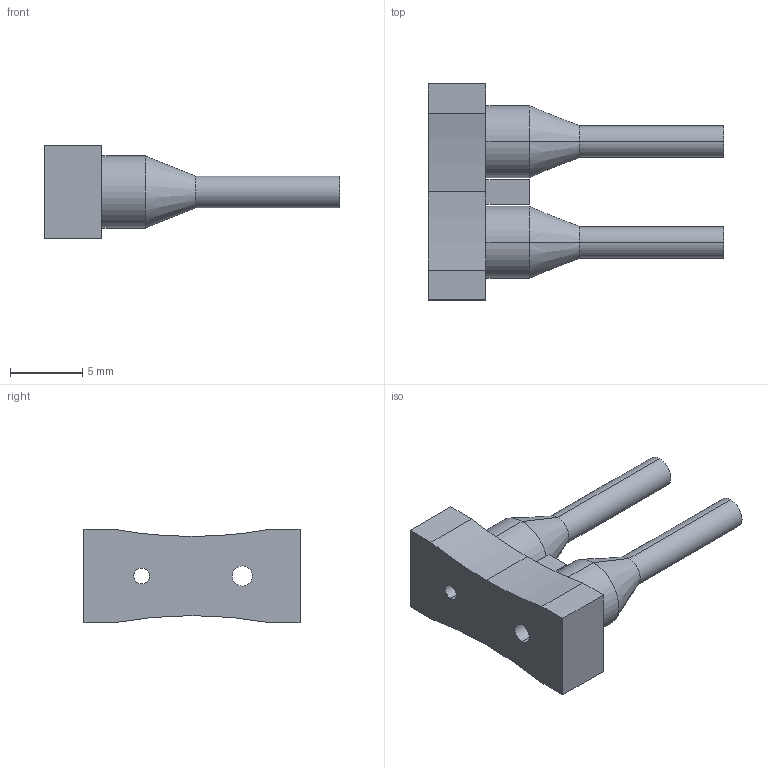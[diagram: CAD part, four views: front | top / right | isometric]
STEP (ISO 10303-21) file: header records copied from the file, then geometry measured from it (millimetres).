
FILE_DESCRIPTION (( 'STEP AP203' ), '1' );
FILE_NAME ('FX-AT6.STEP', '2005-09-08T04:19:06', ( '' ), ( '' ), 'SwSTEP 2.0', 'SolidWorks 2004073', '' );
FILE_SCHEMA (( 'CONFIG_CONTROL_DESIGN' ));
Length unit declared in the file: millimetre
Products named in the file (1): FX-AT6
Bounding box: 20.5 x 15 x 6.5 mm (x, y, z)
Volume: 588.8 mm3; surface area: 817.3 mm2
Topology: 1 solids, 1 shells, 34 faces, 79 edges, 50 vertices
Faces by surface type: plane 15, cylinder 15, cone 4
Entity records: 1054 total; most frequent: DIRECTION 179, CARTESIAN_POINT 164, ORIENTED_EDGE 158, EDGE_CURVE 79, AXIS2_PLACEMENT_3D 65, VERTEX_POINT 50, VECTOR 49, LINE 49
